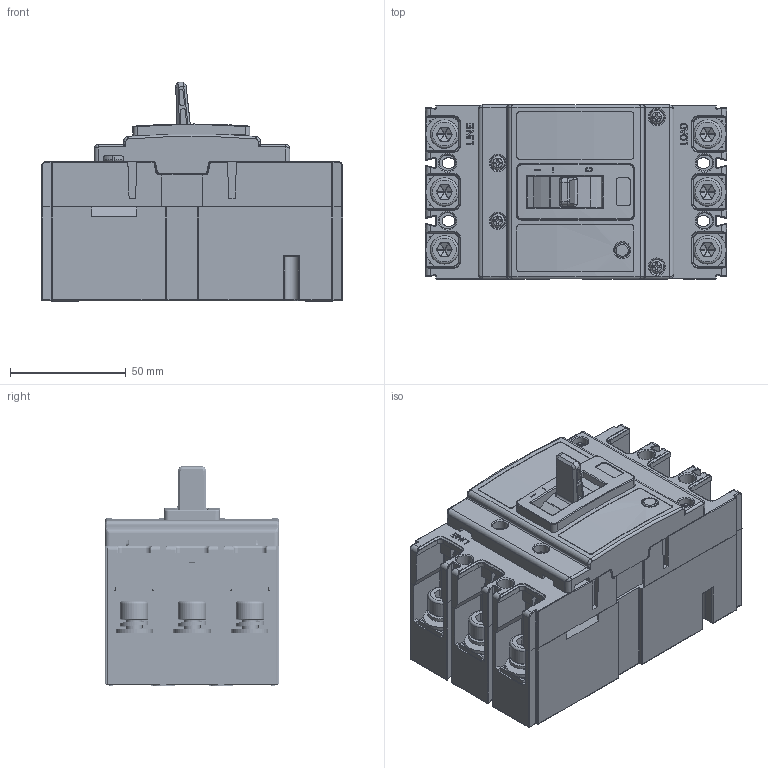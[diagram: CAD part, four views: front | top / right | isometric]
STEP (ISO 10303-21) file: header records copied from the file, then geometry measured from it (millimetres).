
FILE_DESCRIPTION(/* description */ (''),/* implementation_level */ '2;1');
FILE_NAME(/* name */ 'CMM-125-3P-Drawing-3D.stp',/* time_stamp */ '2025-07-07T17:56:26-03:00',/* author */ ('guilh'),/* organization */ (''),/* preprocessor_version */ 'ST-DEVELOPER v20',/* originating_system */ 'Autodesk Inventor 2024',/* authorisation */ '');
FILE_SCHEMA (('AUTOMOTIVE_DESIGN { 1 0 10303 214 3 1 1 }'));
Products named in the file (21): YCM8-125-3P-Drawing-3D; YCM8-125-3P-Drawing-3D.sldasm-Part-1; YCM8-125-3P-Drawing-3D.sldasm-Part-2; YCM8-125-3P-Drawing-3D.sldasm-Part-3; YCM8-125-3P-Drawing-3D.sldasm-Part-4; YCM8-125-3P-Drawing-3D.sldasm-Part-5; YCM8-125-3P-Drawing-3D.sldasm-Part-6; YCM8-125-3P-Drawing-3D.sldasm-Part-7; YCM8-125-3P-Drawing-3D.sldasm-Part-8; YCM8-125-3P-Drawing-3D.sldasm-Part-9; YCM8-125-3P-Drawing-3D.sldasm-Part-10; YCM8-125-3P-Drawing-3D.sldasm-Part-11; YCM8-125-3P-Drawing-3D.sldasm-Part-12; YCM8-125-3P-Drawing-3D.sldasm-Part-13; YCM8-125-3P-Drawing-3D.sldasm-Part-14; YCM8-125-3P-Drawing-3D.sldasm-Part-15; YCM8-125-3P-Drawing-3D.sldasm-Part-16; YCM8-125-3P-Drawing-3D.sldasm-Part-17; YCM8-125-3P-Drawing-3D.sldasm-Part-18; YCM8-125-3P-Drawing-3D.sldasm-Part-19; YCM8-125-3P-Drawing-3D.sldasm-Part-20
Assembly tree (48 placements, depth 2):
  YCM8-125-3P-Drawing-3D
    YCM8-125-3P-Drawing-3D.sldasm-Part-1  x6
    YCM8-125-3P-Drawing-3D.sldasm-Part-2  x6
    YCM8-125-3P-Drawing-3D.sldasm-Part-3  x6
    YCM8-125-3P-Drawing-3D.sldasm-Part-4  x2
    YCM8-125-3P-Drawing-3D.sldasm-Part-5  x2
    YCM8-125-3P-Drawing-3D.sldasm-Part-6
    YCM8-125-3P-Drawing-3D.sldasm-Part-7
    YCM8-125-3P-Drawing-3D.sldasm-Part-8
    YCM8-125-3P-Drawing-3D.sldasm-Part-9
    YCM8-125-3P-Drawing-3D.sldasm-Part-10
    YCM8-125-3P-Drawing-3D.sldasm-Part-11
    YCM8-125-3P-Drawing-3D.sldasm-Part-12  x3
    YCM8-125-3P-Drawing-3D.sldasm-Part-13  x3
    YCM8-125-3P-Drawing-3D.sldasm-Part-14
    YCM8-125-3P-Drawing-3D.sldasm-Part-15
    YCM8-125-3P-Drawing-3D.sldasm-Part-16
    YCM8-125-3P-Drawing-3D.sldasm-Part-17
    YCM8-125-3P-Drawing-3D.sldasm-Part-18  x4
    YCM8-125-3P-Drawing-3D.sldasm-Part-19  x3
    YCM8-125-3P-Drawing-3D.sldasm-Part-20  x3
Bounding box: 130 x 75 x 94.88 mm (x, y, z)
Volume: 224520.6 mm3; surface area: 199153.3 mm2
Topology: 48 solids, 49 shells, 6017 faces, 15887 edges, 10326 vertices
Faces by surface type: plane 4328, cylinder 1147, bspline 231, torus 169, cone 81, sphere 61
Full cylindrical faces by diameter (mm): 2 x1, 2.5 x10, 2.659 x4, 3 x7, 3.3 x4, 3.5 x17, 3.7 x2, 4 x9, 4.5 x12, 4.6 x8, 5.5 x4, 5.6 x2, 5.85 x4, 5.9 x1, 6 x2, 6.05 x2, 6.2 x3, 6.4 x1, 6.5 x4, 6.6 x1, 7 x12, 7.5 x6, 8 x6, 8.3 x6, 9 x6, 12.2 x6, 16 x6
Entity records: 138806 total; most frequent: CARTESIAN_POINT 31669, ORIENTED_EDGE 22482, DIRECTION 21401, EDGE_CURVE 11241, LINE 8193, VECTOR 8193, VERTEX_POINT 7296, AXIS2_PLACEMENT_3D 6604
